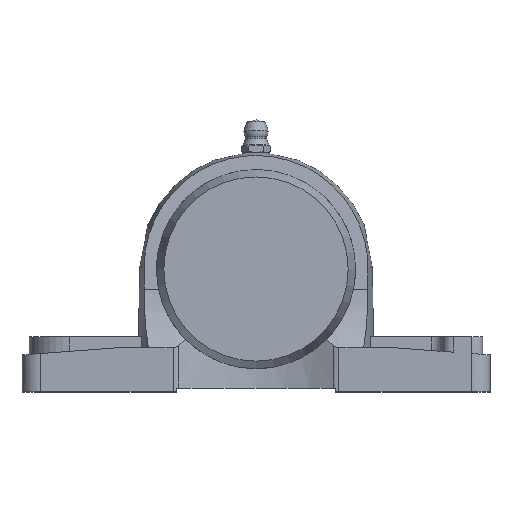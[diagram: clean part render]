
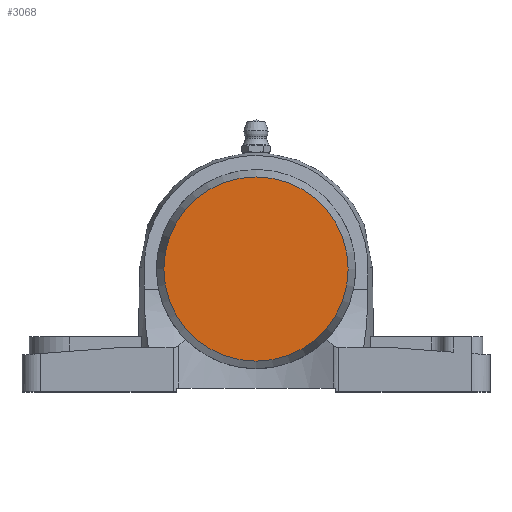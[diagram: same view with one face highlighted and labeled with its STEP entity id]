
A CAD part, top view. The second image highlights one B-rep face of the part: STEP entity #3068.
In plain terms, the highlighted planar face has unit normal (0, 0, 1).
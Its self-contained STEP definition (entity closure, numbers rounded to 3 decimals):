
#185=PLANE('',#3492);
#333=FACE_OUTER_BOUND('',#520,.T.);
#520=EDGE_LOOP('',(#2578,#2579));
#697=CIRCLE('',#3493,25.);
#698=CIRCLE('',#3494,25.);
#1405=VERTEX_POINT('',#5584);
#1406=VERTEX_POINT('',#5585);
#1814=EDGE_CURVE('',#1405,#1406,#697,.T.);
#1815=EDGE_CURVE('',#1406,#1405,#698,.T.);
#2578=ORIENTED_EDGE('',*,*,#1814,.F.);
#2579=ORIENTED_EDGE('',*,*,#1815,.F.);
#3068=ADVANCED_FACE('',(#333),#185,.T.);
#3492=AXIS2_PLACEMENT_3D('',#5583,#4258,#4259);
#3493=AXIS2_PLACEMENT_3D('',#5586,#4260,#4261);
#3494=AXIS2_PLACEMENT_3D('',#5587,#4262,#4263);
#4258=DIRECTION('center_axis',(0.,0.,1.));
#4259=DIRECTION('ref_axis',(1.,0.,0.));
#4260=DIRECTION('center_axis',(0.,0.,-1.));
#4261=DIRECTION('ref_axis',(0.,1.,0.));
#4262=DIRECTION('center_axis',(0.,0.,-1.));
#4263=DIRECTION('ref_axis',(0.,1.,0.));
#5583=CARTESIAN_POINT('Origin',(0.,12.5,20.));
#5584=CARTESIAN_POINT('',(0.,25.,20.));
#5585=CARTESIAN_POINT('',(0.,-25.,20.));
#5586=CARTESIAN_POINT('Origin',(0.,0.,20.));
#5587=CARTESIAN_POINT('Origin',(0.,0.,20.));
